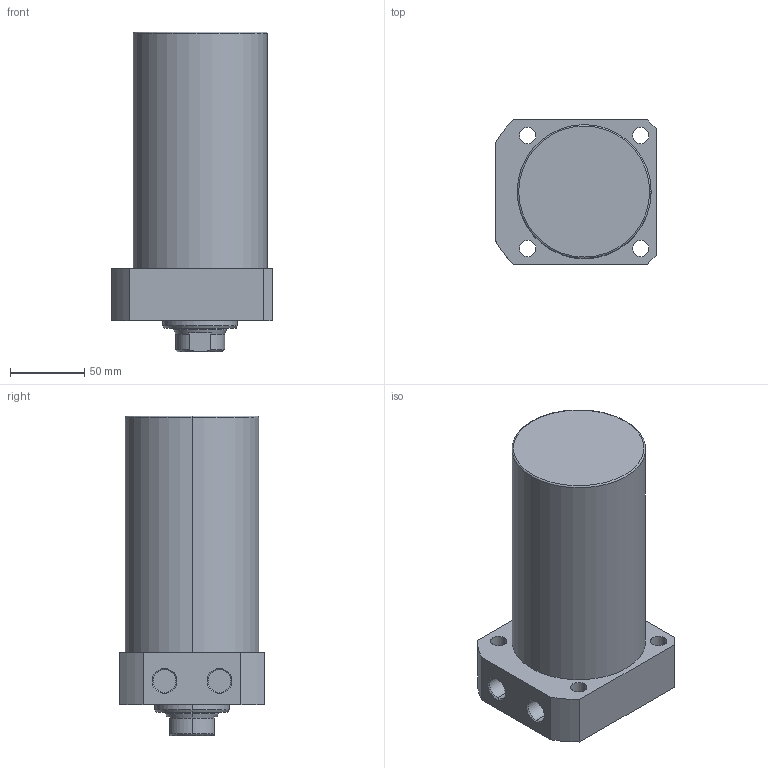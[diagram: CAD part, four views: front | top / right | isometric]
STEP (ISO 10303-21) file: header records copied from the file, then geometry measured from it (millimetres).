
FILE_DESCRIPTION (( 'STEP AP203' ), '1' );
FILE_NAME ('CLLR-090CA-115.STEP', '2019-12-18T06:26:38', ( '' ), ( '' ), 'SwSTEP 2.0', 'SolidWorks 2015', '' );
FILE_SCHEMA (( 'CONFIG_CONTROL_DESIGN' ));
Length unit declared in the file: millimetre
Products named in the file (1): CLLR-090CA-115
Bounding box: 108 x 97 x 215 mm (x, y, z)
Volume: 1360419.7 mm3; surface area: 90043.6 mm2
Topology: 1 solids, 1 shells, 65 faces, 151 edges, 94 vertices
Faces by surface type: cylinder 29, plane 19, cone 15, torus 2
Entity records: 1977 total; most frequent: CARTESIAN_POINT 357, DIRECTION 350, ORIENTED_EDGE 298, EDGE_CURVE 149, AXIS2_PLACEMENT_3D 143, VERTEX_POINT 94, EDGE_LOOP 81, CIRCLE 77
